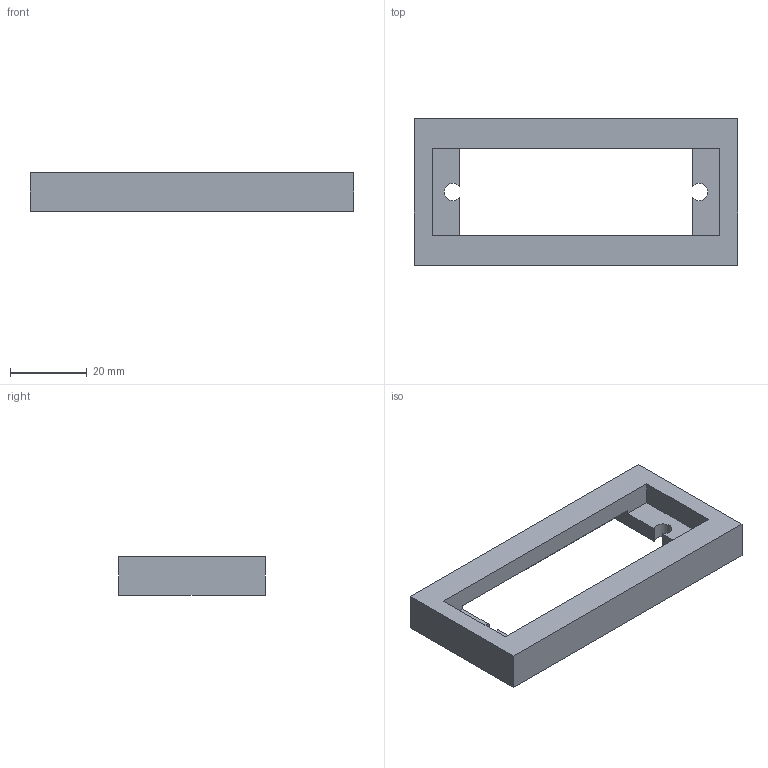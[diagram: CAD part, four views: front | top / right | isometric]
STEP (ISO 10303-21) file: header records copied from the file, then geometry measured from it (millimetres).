
FILE_DESCRIPTION(('Open CASCADE Model'),'2;1');
FILE_NAME('Open CASCADE Shape Model','2026-09-10T23:36:50',('Author'),( 'Open CASCADE'),'Open CASCADE STEP processor 7.9','Open CASCADE 7.9' ,'Unknown');
FILE_SCHEMA(('AUTOMOTIVE_DESIGN { 1 0 10303 214 1 1 1 1 }'));
Length unit declared in the file: millimetre
Products named in the file (1): Open CASCADE STEP translator 7.9 14
Bounding box: 84 x 38 x 10 mm (x, y, z)
Volume: 13082.2 mm3; surface area: 8007.4 mm2
Topology: 1 solids, 1 shells, 22 faces, 60 edges, 40 vertices
Faces by surface type: plane 20, cylinder 2
Entity records: 1460 total; most frequent: CARTESIAN_POINT 283, DIRECTION 200, LINE 144, VECTOR 144, ORIENTED_EDGE 120, PCURVE 120, DEFINITIONAL_REPRESENTATION 120, EDGE_CURVE 60
